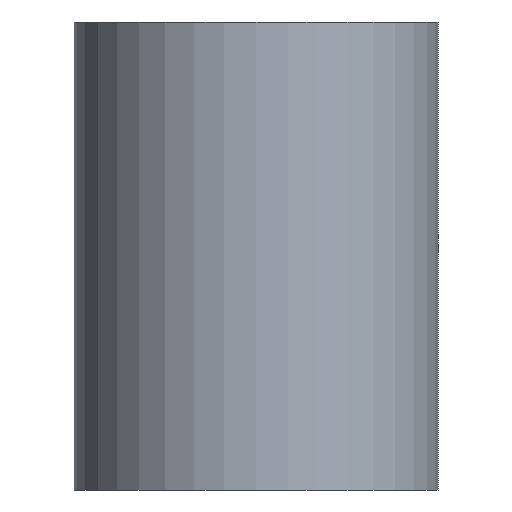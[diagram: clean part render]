
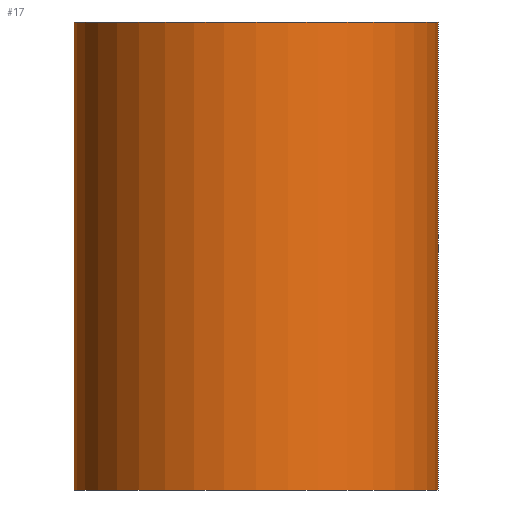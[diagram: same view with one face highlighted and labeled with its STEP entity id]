
A CAD part, front view. The second image highlights one B-rep face of the part: STEP entity #17.
In plain terms, the highlighted cylindrical face has radius 7 mm (diameter 14 mm), a full revolution.
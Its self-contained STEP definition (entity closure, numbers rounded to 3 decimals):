
#17 = ADVANCED_FACE('',(#18),#31,.T.);
#18 = FACE_BOUND('',#19,.T.);
#19 = EDGE_LOOP('',(#20,#54,#77,#104));
#20 = ORIENTED_EDGE('',*,*,#21,.F.);
#21 = EDGE_CURVE('',#22,#22,#24,.T.);
#22 = VERTEX_POINT('',#23);
#23 = CARTESIAN_POINT('',(14.,7.,18.));
#24 = SURFACE_CURVE('',#25,(#30,#42),.PCURVE_S1.);
#25 = CIRCLE('',#26,7.);
#26 = AXIS2_PLACEMENT_3D('',#27,#28,#29);
#27 = CARTESIAN_POINT('',(7.,7.,18.));
#28 = DIRECTION('',(0.,0.,1.));
#29 = DIRECTION('',(1.,0.,-0.));
#30 = PCURVE('',#31,#36);
#31 = CYLINDRICAL_SURFACE('',#32,7.);
#32 = AXIS2_PLACEMENT_3D('',#33,#34,#35);
#33 = CARTESIAN_POINT('',(7.,7.,0.));
#34 = DIRECTION('',(0.,0.,1.));
#35 = DIRECTION('',(1.,0.,-0.));
#36 = DEFINITIONAL_REPRESENTATION('',(#37),#41);
#37 = LINE('',#38,#39);
#38 = CARTESIAN_POINT('',(0.,18.));
#39 = VECTOR('',#40,1.);
#40 = DIRECTION('',(1.,0.));
#41 = ( GEOMETRIC_REPRESENTATION_CONTEXT(2) 
PARAMETRIC_REPRESENTATION_CONTEXT() REPRESENTATION_CONTEXT('2D SPACE',''
  ) );
#42 = PCURVE('',#43,#48);
#43 = PLANE('',#44);
#44 = AXIS2_PLACEMENT_3D('',#45,#46,#47);
#45 = CARTESIAN_POINT('',(7.,7.,18.));
#46 = DIRECTION('',(0.,0.,1.));
#47 = DIRECTION('',(1.,0.,-0.));
#48 = DEFINITIONAL_REPRESENTATION('',(#49),#53);
#49 = CIRCLE('',#50,7.);
#50 = AXIS2_PLACEMENT_2D('',#51,#52);
#51 = CARTESIAN_POINT('',(0.,0.));
#52 = DIRECTION('',(1.,0.));
#53 = ( GEOMETRIC_REPRESENTATION_CONTEXT(2) 
PARAMETRIC_REPRESENTATION_CONTEXT() REPRESENTATION_CONTEXT('2D SPACE',''
  ) );
#54 = ORIENTED_EDGE('',*,*,#55,.F.);
#55 = EDGE_CURVE('',#56,#22,#58,.T.);
#56 = VERTEX_POINT('',#57);
#57 = CARTESIAN_POINT('',(14.,7.,0.));
#58 = SEAM_CURVE('',#59,(#63,#70),.PCURVE_S1.);
#59 = LINE('',#60,#61);
#60 = CARTESIAN_POINT('',(14.,7.,0.));
#61 = VECTOR('',#62,1.);
#62 = DIRECTION('',(0.,0.,1.));
#63 = PCURVE('',#31,#64);
#64 = DEFINITIONAL_REPRESENTATION('',(#65),#69);
#65 = LINE('',#66,#67);
#66 = CARTESIAN_POINT('',(6.283,-0.));
#67 = VECTOR('',#68,1.);
#68 = DIRECTION('',(0.,1.));
#69 = ( GEOMETRIC_REPRESENTATION_CONTEXT(2) 
PARAMETRIC_REPRESENTATION_CONTEXT() REPRESENTATION_CONTEXT('2D SPACE',''
  ) );
#70 = PCURVE('',#31,#71);
#71 = DEFINITIONAL_REPRESENTATION('',(#72),#76);
#72 = LINE('',#73,#74);
#73 = CARTESIAN_POINT('',(0.,-0.));
#74 = VECTOR('',#75,1.);
#75 = DIRECTION('',(0.,1.));
#76 = ( GEOMETRIC_REPRESENTATION_CONTEXT(2) 
PARAMETRIC_REPRESENTATION_CONTEXT() REPRESENTATION_CONTEXT('2D SPACE',''
  ) );
#77 = ORIENTED_EDGE('',*,*,#78,.T.);
#78 = EDGE_CURVE('',#56,#56,#79,.T.);
#79 = SURFACE_CURVE('',#80,(#85,#92),.PCURVE_S1.);
#80 = CIRCLE('',#81,7.);
#81 = AXIS2_PLACEMENT_3D('',#82,#83,#84);
#82 = CARTESIAN_POINT('',(7.,7.,0.));
#83 = DIRECTION('',(0.,0.,1.));
#84 = DIRECTION('',(1.,0.,-0.));
#85 = PCURVE('',#31,#86);
#86 = DEFINITIONAL_REPRESENTATION('',(#87),#91);
#87 = LINE('',#88,#89);
#88 = CARTESIAN_POINT('',(0.,0.));
#89 = VECTOR('',#90,1.);
#90 = DIRECTION('',(1.,0.));
#91 = ( GEOMETRIC_REPRESENTATION_CONTEXT(2) 
PARAMETRIC_REPRESENTATION_CONTEXT() REPRESENTATION_CONTEXT('2D SPACE',''
  ) );
#92 = PCURVE('',#93,#98);
#93 = PLANE('',#94);
#94 = AXIS2_PLACEMENT_3D('',#95,#96,#97);
#95 = CARTESIAN_POINT('',(7.,7.,0.));
#96 = DIRECTION('',(0.,0.,1.));
#97 = DIRECTION('',(1.,0.,-0.));
#98 = DEFINITIONAL_REPRESENTATION('',(#99),#103);
#99 = CIRCLE('',#100,7.);
#100 = AXIS2_PLACEMENT_2D('',#101,#102);
#101 = CARTESIAN_POINT('',(0.,0.));
#102 = DIRECTION('',(1.,0.));
#103 = ( GEOMETRIC_REPRESENTATION_CONTEXT(2) 
PARAMETRIC_REPRESENTATION_CONTEXT() REPRESENTATION_CONTEXT('2D SPACE',''
  ) );
#104 = ORIENTED_EDGE('',*,*,#55,.T.);
